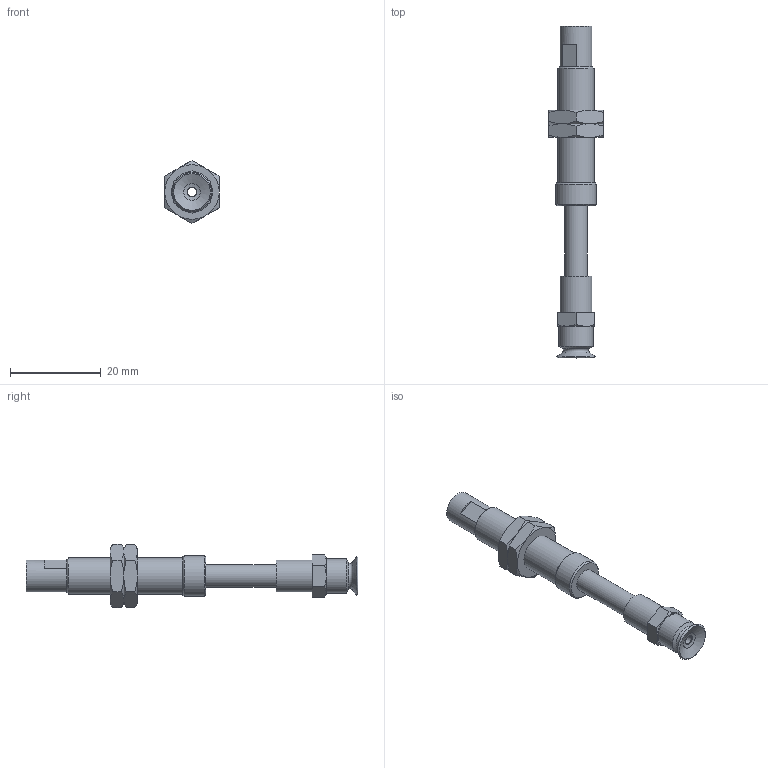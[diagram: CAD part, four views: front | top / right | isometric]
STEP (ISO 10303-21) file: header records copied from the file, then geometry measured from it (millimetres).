
FILE_DESCRIPTION(('STEP AP203'),'1');
FILE_NAME('-SPE.stp','2025-04-11T08:44:43',(' '),(' '),'Spatial InterOp 3D',' ',' ');
FILE_SCHEMA(('CONFIG_CONTROL_DESIGN'));
Length unit declared in the file: millimetre
Products named in the file (9): BNABPFTS-8A-15-※-SPE; NUT; BODY; STOPPER; ZIG; TN-PS-10-M5; Setting screws-TN-PS-10-M5; BPFG-8A-※
Assembly tree (8 placements, depth 3):
  BNABPFTS-8A-15-※-SPE
    NUT
    NUT
    BODY
    STOPPER
    ZIG
    TN-PS-10-M5
      Setting screws-TN-PS-10-M5
    BPFG-8A-※
Bounding box: 12 x 73 x 13.86 mm (x, y, z)
Volume: 2984.1 mm3; surface area: 4559.9 mm2
Topology: 7 solids, 7 shells, 144 faces, 300 edges, 182 vertices
Faces by surface type: plane 60, cone 48, cylinder 26, torus 9, bspline 1
Full cylindrical faces by diameter (mm): 2 x3, 3.4 x1, 3.5 x1, 3.9 x1, 4 x5, 4.2 x2, 5 x3, 5.2 x1, 6 x2, 7 x2, 7.25 x2, 7.5 x1, 8 x1, 9 x1
Entity records: 3955 total; most frequent: CARTESIAN_POINT 763, DIRECTION 592, ORIENTED_EDGE 462, AXIS2_PLACEMENT_3D 268, EDGE_CURVE 231, EDGE_LOOP 224, FACE_OUTER_BOUND 180, VERTEX_POINT 167
